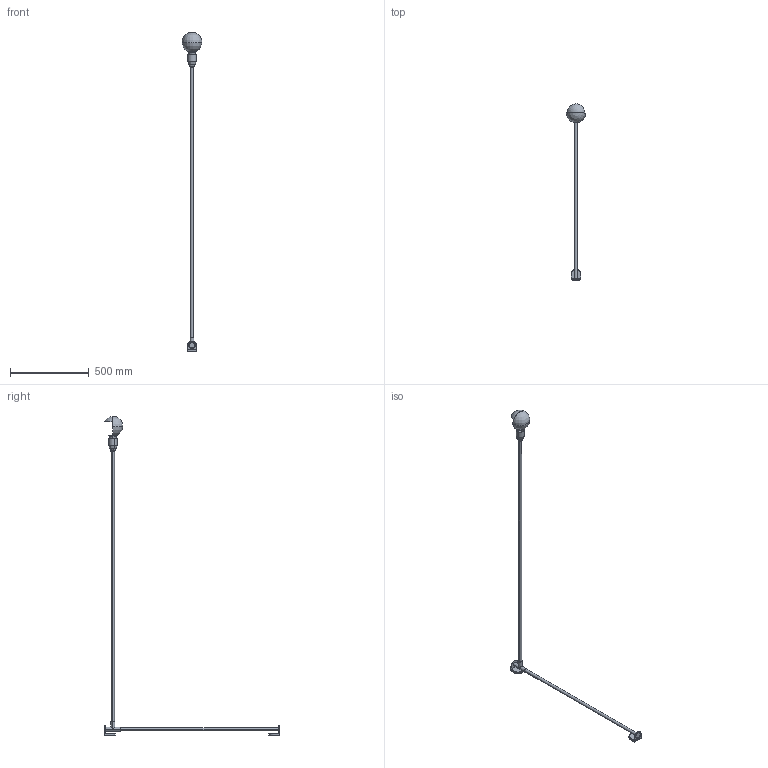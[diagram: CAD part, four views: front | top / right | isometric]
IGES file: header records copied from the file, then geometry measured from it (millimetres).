
Start section: SolidWorks IGES file using analytic representation for surfaces
Global section: file name: C:\Users\tungari.NEMOLIGHTING\Desktop\3D\WALL\3D_POTENCE_PIVOTANTEEEE\DEF\3D_POTENCE_PIVOTANTE.IGS; native system: SolidWorks 2016; preprocessor: SolidWorks 2016; author: tungari; date: 180314.155057; units: millimetre
Bounding box: 124.88 x 1116.1 x 2027.82 mm (x, y, z)
Surface area: 295828.8 mm2 (no closed solid volume)
Topology: 0 solids, 0 shells, 139 faces, 2450 edges, 2449 vertices
Faces by surface type: bspline 80, revolution 59
